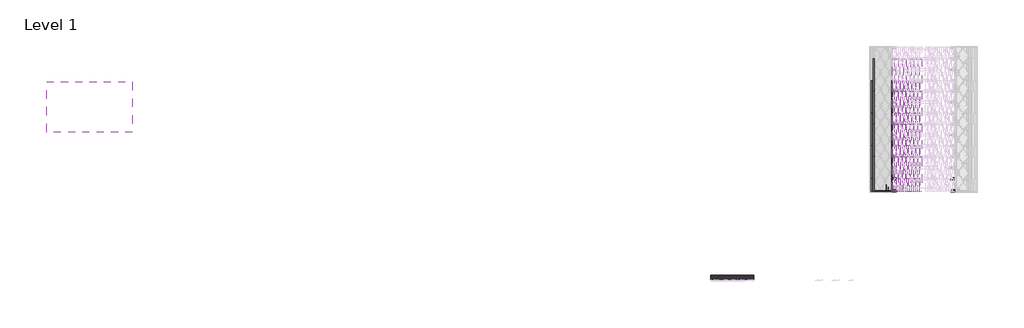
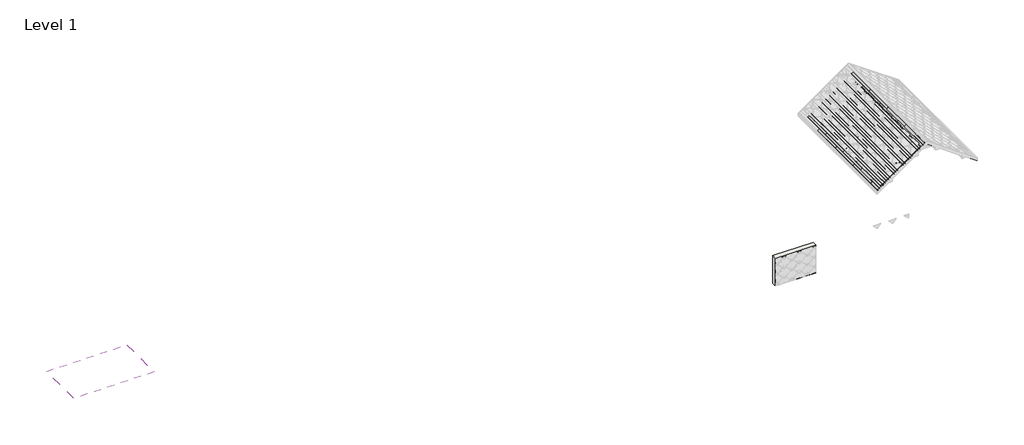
# One storey, part 1 of 6: 106 beams, 1 roof, 1 wall.
"""IFC4 building model written with IfcOpenShell, lengths in millimetres."""

from ifc_helpers import new_model, si_unit, frame, origin, place, context, project, spatial, polyline, outline, extrude, transform, mapped, element, save
from components import structural_framing_100_structural_framing_15_5def26a6, structural_framing_101_structural_framing_15_d9cf2b80, structural_framing_103_structural_framing_15_b869128d, structural_framing_109_structural_framing_15_08dff260, structural_framing_1_structural_framing_1_4f4e03de, structural_framing_14_structural_framing_1_1f79d0da

model = new_model("IFC4")

# Units and contexts
model_context = context("Model", 3, world=origin())
ifc_project = project(units=[si_unit("LENGTHUNIT", "METRE", prefix="MILLI")], contexts=[model_context])

# Site, building, storey
site = spatial("IfcSite", under=ifc_project)
building = spatial("IfcBuilding", under=site)
storey = spatial("IfcBuildingStorey", under=building, Name="Level 1", Elevation=0.0)

# Beams
placement = place(None, origin())
structural_framing_100_structural_framing_15_shape = structural_framing_100_structural_framing_15_5def26a6(model_context)
element("IfcBeam", 1, ObjectType="Structural Framing 100 : Structural Framing 15", at=placement, inside=storey, context=model_context, shape_type="MappedRepresentation", body=[
    mapped(structural_framing_100_structural_framing_15_shape, transform((-2370.3637404, -870.0, -1700.0), x_axis=(1.0, 0.0, 0.0), y_axis=(0.0, 1.0, 0.0), z_axis=(0.0, 0.0, 1.0))),
])
structural_framing_101_structural_framing_15_shape = structural_framing_101_structural_framing_15_d9cf2b80(model_context)
element("IfcBeam", 2, ObjectType="Structural Framing 101 : Structural Framing 15", at=placement, inside=storey, context=model_context, shape_type="MappedRepresentation", body=[
    mapped(structural_framing_101_structural_framing_15_shape, transform((-2370.3637404, -3340.0, -1700.0), x_axis=(1.0, 0.0, 0.0), y_axis=(0.0, 1.0, 0.0), z_axis=(0.0, 0.0, 1.0))),
])
element("IfcBeam", 3, ObjectType="Structural Framing 102 : Structural Framing 15", at=placement, inside=storey, context=model_context, shape_type="MappedRepresentation", body=[
    mapped(structural_framing_101_structural_framing_15_shape, transform((-2370.3637404, -5740.0, -1700.0), x_axis=(1.0, 0.0, 0.0), y_axis=(0.0, 1.0, 0.0), z_axis=(0.0, 0.0, 1.0))),
])
structural_framing_103_structural_framing_15_shape = structural_framing_103_structural_framing_15_b869128d(model_context)
element("IfcBeam", 4, ObjectType="Structural Framing 103 : Structural Framing 15", at=placement, inside=storey, context=model_context, shape_type="MappedRepresentation", body=[
    mapped(structural_framing_103_structural_framing_15_shape, transform((-2370.3637404, -8140.0, -1700.0), x_axis=(1.0, 0.0, 0.0), y_axis=(0.0, 1.0, 0.0), z_axis=(0.0, 0.0, 1.0))),
])
element("IfcBeam", 5, ObjectType="Structural Framing 106 : Structural Framing 15", at=placement, inside=storey, context=model_context, shape_type="MappedRepresentation", body=[
    mapped(structural_framing_100_structural_framing_15_shape, transform((-2513.178541, -2470.0, -1800.0), x_axis=(1.0, 0.0, 0.0), y_axis=(0.0, 1.0, 0.0), z_axis=(0.0, 0.0, 1.0))),
])
element("IfcBeam", 6, ObjectType="Structural Framing 107 : Structural Framing 15", at=placement, inside=storey, context=model_context, shape_type="MappedRepresentation", body=[
    mapped(structural_framing_100_structural_framing_15_shape, transform((-2513.178541, -4870.0, -1800.0), x_axis=(1.0, 0.0, 0.0), y_axis=(0.0, 1.0, 0.0), z_axis=(0.0, 0.0, 1.0))),
])
element("IfcBeam", 7, ObjectType="Structural Framing 108 : Structural Framing 15", at=placement, inside=storey, context=model_context, shape_type="MappedRepresentation", body=[
    mapped(structural_framing_100_structural_framing_15_shape, transform((-2513.178541, -7270.0, -1800.0), x_axis=(1.0, 0.0, 0.0), y_axis=(0.0, 1.0, 0.0), z_axis=(0.0, 0.0, 1.0))),
])
structural_framing_109_structural_framing_15_shape = structural_framing_109_structural_framing_15_08dff260(model_context)
element("IfcBeam", 8, ObjectType="Structural Framing 109 : Structural Framing 15", at=placement, inside=storey, context=model_context, shape_type="MappedRepresentation", body=[
    mapped(structural_framing_109_structural_framing_15_shape, transform((-2513.178541, -9670.0, -1800.0), x_axis=(1.0, 0.0, 0.0), y_axis=(0.0, 1.0, 0.0), z_axis=(0.0, 0.0, 1.0))),
])
element("IfcBeam", 9, ObjectType="Structural Framing 110 : Structural Framing 15", at=placement, inside=storey, context=model_context, shape_type="MappedRepresentation", body=[
    mapped(structural_framing_100_structural_framing_15_shape, transform((-2655.9933417, -870.0, -1900.0), x_axis=(1.0, 0.0, 0.0), y_axis=(0.0, 1.0, 0.0), z_axis=(0.0, 0.0, 1.0))),
])
element("IfcBeam", 10, ObjectType="Structural Framing 111 : Structural Framing 15", at=placement, inside=storey, context=model_context, shape_type="MappedRepresentation", body=[
    mapped(structural_framing_101_structural_framing_15_shape, transform((-2655.9933417, -3340.0, -1900.0), x_axis=(1.0, 0.0, 0.0), y_axis=(0.0, 1.0, 0.0), z_axis=(0.0, 0.0, 1.0))),
])
element("IfcBeam", 11, ObjectType="Structural Framing 112 : Structural Framing 15", at=placement, inside=storey, context=model_context, shape_type="MappedRepresentation", body=[
    mapped(structural_framing_101_structural_framing_15_shape, transform((-2655.9933417, -5740.0, -1900.0), x_axis=(1.0, 0.0, 0.0), y_axis=(0.0, 1.0, 0.0), z_axis=(0.0, 0.0, 1.0))),
])
element("IfcBeam", 12, ObjectType="Structural Framing 113 : Structural Framing 15", at=placement, inside=storey, context=model_context, shape_type="MappedRepresentation", body=[
    mapped(structural_framing_103_structural_framing_15_shape, transform((-2655.9933417, -8140.0, -1900.0), x_axis=(1.0, 0.0, 0.0), y_axis=(0.0, 1.0, 0.0), z_axis=(0.0, 0.0, 1.0))),
])
element("IfcBeam", 13, ObjectType="Structural Framing 116 : Structural Framing 15", at=placement, inside=storey, context=model_context, shape_type="MappedRepresentation", body=[
    mapped(structural_framing_100_structural_framing_15_shape, transform((-2798.8081424, -2470.0, -2000.0), x_axis=(1.0, 0.0, 0.0), y_axis=(0.0, 1.0, 0.0), z_axis=(0.0, 0.0, 1.0))),
])
element("IfcBeam", 14, ObjectType="Structural Framing 117 : Structural Framing 15", at=placement, inside=storey, context=model_context, shape_type="MappedRepresentation", body=[
    mapped(structural_framing_100_structural_framing_15_shape, transform((-2798.8081424, -4870.0, -2000.0), x_axis=(1.0, 0.0, 0.0), y_axis=(0.0, 1.0, 0.0), z_axis=(0.0, 0.0, 1.0))),
])
element("IfcBeam", 15, ObjectType="Structural Framing 118 : Structural Framing 15", at=placement, inside=storey, context=model_context, shape_type="MappedRepresentation", body=[
    mapped(structural_framing_100_structural_framing_15_shape, transform((-2798.8081424, -7270.0, -2000.0), x_axis=(1.0, 0.0, 0.0), y_axis=(0.0, 1.0, 0.0), z_axis=(0.0, 0.0, 1.0))),
])
element("IfcBeam", 16, ObjectType="Structural Framing 119 : Structural Framing 15", at=placement, inside=storey, context=model_context, shape_type="MappedRepresentation", body=[
    mapped(structural_framing_109_structural_framing_15_shape, transform((-2798.8081424, -9670.0, -2000.0), x_axis=(1.0, 0.0, 0.0), y_axis=(0.0, 1.0, 0.0), z_axis=(0.0, 0.0, 1.0))),
])
element("IfcBeam", 17, ObjectType="Structural Framing 120 : Structural Framing 15", at=placement, inside=storey, context=model_context, shape_type="MappedRepresentation", body=[
    mapped(structural_framing_100_structural_framing_15_shape, transform((-2941.622943, -870.0, -2100.0), x_axis=(1.0, 0.0, 0.0), y_axis=(0.0, 1.0, 0.0), z_axis=(0.0, 0.0, 1.0))),
])
element("IfcBeam", 18, ObjectType="Structural Framing 121 : Structural Framing 15", at=placement, inside=storey, context=model_context, shape_type="MappedRepresentation", body=[
    mapped(structural_framing_101_structural_framing_15_shape, transform((-2941.622943, -3340.0, -2100.0), x_axis=(1.0, 0.0, 0.0), y_axis=(0.0, 1.0, 0.0), z_axis=(0.0, 0.0, 1.0))),
])
element("IfcBeam", 19, ObjectType="Structural Framing 122 : Structural Framing 15", at=placement, inside=storey, context=model_context, shape_type="MappedRepresentation", body=[
    mapped(structural_framing_101_structural_framing_15_shape, transform((-2941.622943, -5740.0, -2100.0), x_axis=(1.0, 0.0, 0.0), y_axis=(0.0, 1.0, 0.0), z_axis=(0.0, 0.0, 1.0))),
])
element("IfcBeam", 20, ObjectType="Structural Framing 123 : Structural Framing 15", at=placement, inside=storey, context=model_context, shape_type="MappedRepresentation", body=[
    mapped(structural_framing_103_structural_framing_15_shape, transform((-2941.622943, -8140.0, -2100.0), x_axis=(1.0, 0.0, 0.0), y_axis=(0.0, 1.0, 0.0), z_axis=(0.0, 0.0, 1.0))),
])
element("IfcBeam", 21, ObjectType="Structural Framing 126 : Structural Framing 15", at=placement, inside=storey, context=model_context, shape_type="MappedRepresentation", body=[
    mapped(structural_framing_100_structural_framing_15_shape, transform((-3084.4377437, -2470.0, -2200.0), x_axis=(1.0, 0.0, 0.0), y_axis=(0.0, 1.0, 0.0), z_axis=(0.0, 0.0, 1.0))),
])
element("IfcBeam", 22, ObjectType="Structural Framing 127 : Structural Framing 15", at=placement, inside=storey, context=model_context, shape_type="MappedRepresentation", body=[
    mapped(structural_framing_100_structural_framing_15_shape, transform((-3084.4377437, -4870.0, -2200.0), x_axis=(1.0, 0.0, 0.0), y_axis=(0.0, 1.0, 0.0), z_axis=(0.0, 0.0, 1.0))),
])
element("IfcBeam", 23, ObjectType="Structural Framing 128 : Structural Framing 15", at=placement, inside=storey, context=model_context, shape_type="MappedRepresentation", body=[
    mapped(structural_framing_100_structural_framing_15_shape, transform((-3084.4377437, -7270.0, -2200.0), x_axis=(1.0, 0.0, 0.0), y_axis=(0.0, 1.0, 0.0), z_axis=(0.0, 0.0, 1.0))),
])
element("IfcBeam", 24, ObjectType="Structural Framing 129 : Structural Framing 15", at=placement, inside=storey, context=model_context, shape_type="MappedRepresentation", body=[
    mapped(structural_framing_109_structural_framing_15_shape, transform((-3084.4377437, -9670.0, -2200.0), x_axis=(1.0, 0.0, 0.0), y_axis=(0.0, 1.0, 0.0), z_axis=(0.0, 0.0, 1.0))),
])
structural_framing_1_structural_framing_1_shape = structural_framing_1_structural_framing_1_4f4e03de(model_context)
element("IfcBeam", 25, ObjectType="Structural Framing 13 : Structural Framing 1", at=placement, inside=storey, context=model_context, shape_type="MappedRepresentation", body=[
    mapped(structural_framing_1_structural_framing_1_shape, transform((57.4878711, -9600.0, 0.0), x_axis=(1.0, 0.0, 0.0), y_axis=(0.0, 1.0, 0.0), z_axis=(0.0, 0.0, 1.0))),
])
element("IfcBeam", 26, ObjectType="Structural Framing 130 : Structural Framing 15", at=placement, inside=storey, context=model_context, shape_type="MappedRepresentation", body=[
    mapped(structural_framing_100_structural_framing_15_shape, transform((-3227.2525444, -870.0, -2300.0), x_axis=(1.0, 0.0, 0.0), y_axis=(0.0, 1.0, 0.0), z_axis=(0.0, 0.0, 1.0))),
])
element("IfcBeam", 27, ObjectType="Structural Framing 131 : Structural Framing 15", at=placement, inside=storey, context=model_context, shape_type="MappedRepresentation", body=[
    mapped(structural_framing_101_structural_framing_15_shape, transform((-3227.2525444, -3340.0, -2300.0), x_axis=(1.0, 0.0, 0.0), y_axis=(0.0, 1.0, 0.0), z_axis=(0.0, 0.0, 1.0))),
])
element("IfcBeam", 28, ObjectType="Structural Framing 132 : Structural Framing 15", at=placement, inside=storey, context=model_context, shape_type="MappedRepresentation", body=[
    mapped(structural_framing_101_structural_framing_15_shape, transform((-3227.2525444, -5740.0, -2300.0), x_axis=(1.0, 0.0, 0.0), y_axis=(0.0, 1.0, 0.0), z_axis=(0.0, 0.0, 1.0))),
])
element("IfcBeam", 29, ObjectType="Structural Framing 133 : Structural Framing 15", at=placement, inside=storey, context=model_context, shape_type="MappedRepresentation", body=[
    mapped(structural_framing_103_structural_framing_15_shape, transform((-3227.2525444, -8140.0, -2300.0), x_axis=(1.0, 0.0, 0.0), y_axis=(0.0, 1.0, 0.0), z_axis=(0.0, 0.0, 1.0))),
])
element("IfcBeam", 30, ObjectType="Structural Framing 136 : Structural Framing 15", at=placement, inside=storey, context=model_context, shape_type="MappedRepresentation", body=[
    mapped(structural_framing_100_structural_framing_15_shape, transform((-3370.0673451, -2470.0, -2400.0), x_axis=(1.0, 0.0, 0.0), y_axis=(0.0, 1.0, 0.0), z_axis=(0.0, 0.0, 1.0))),
])
element("IfcBeam", 31, ObjectType="Structural Framing 137 : Structural Framing 15", at=placement, inside=storey, context=model_context, shape_type="MappedRepresentation", body=[
    mapped(structural_framing_100_structural_framing_15_shape, transform((-3370.0673451, -4870.0, -2400.0), x_axis=(1.0, 0.0, 0.0), y_axis=(0.0, 1.0, 0.0), z_axis=(0.0, 0.0, 1.0))),
])
element("IfcBeam", 32, ObjectType="Structural Framing 138 : Structural Framing 15", at=placement, inside=storey, context=model_context, shape_type="MappedRepresentation", body=[
    mapped(structural_framing_100_structural_framing_15_shape, transform((-3370.0673451, -7270.0, -2400.0), x_axis=(1.0, 0.0, 0.0), y_axis=(0.0, 1.0, 0.0), z_axis=(0.0, 0.0, 1.0))),
])
element("IfcBeam", 33, ObjectType="Structural Framing 139 : Structural Framing 15", at=placement, inside=storey, context=model_context, shape_type="MappedRepresentation", body=[
    mapped(structural_framing_109_structural_framing_15_shape, transform((-3370.0673451, -9670.0, -2400.0), x_axis=(1.0, 0.0, 0.0), y_axis=(0.0, 1.0, 0.0), z_axis=(0.0, 0.0, 1.0))),
])
structural_framing_14_structural_framing_1_shape = structural_framing_14_structural_framing_1_1f79d0da(model_context)
element("IfcBeam", 34, ObjectType="Structural Framing 14 : Structural Framing 1", at=placement, inside=storey, context=model_context, shape_type="MappedRepresentation", body=[
    mapped(structural_framing_14_structural_framing_1_shape, transform((57.4878711, -10488.455608, 0.0), x_axis=(1.0, 0.0, 0.0), y_axis=(0.0, 1.0, 0.0), z_axis=(0.0, 0.0, 1.0))),
])
element("IfcBeam", 35, ObjectType="Structural Framing 140 : Structural Framing 15", at=placement, inside=storey, context=model_context, shape_type="MappedRepresentation", body=[
    mapped(structural_framing_100_structural_framing_15_shape, transform((-3512.8821457, -870.0, -2500.0), x_axis=(1.0, 0.0, 0.0), y_axis=(0.0, 1.0, 0.0), z_axis=(0.0, 0.0, 1.0))),
])
element("IfcBeam", 36, ObjectType="Structural Framing 141 : Structural Framing 15", at=placement, inside=storey, context=model_context, shape_type="MappedRepresentation", body=[
    mapped(structural_framing_101_structural_framing_15_shape, transform((-3512.8821457, -3340.0, -2500.0), x_axis=(1.0, 0.0, 0.0), y_axis=(0.0, 1.0, 0.0), z_axis=(0.0, 0.0, 1.0))),
])
element("IfcBeam", 37, ObjectType="Structural Framing 142 : Structural Framing 15", at=placement, inside=storey, context=model_context, shape_type="MappedRepresentation", body=[
    mapped(structural_framing_101_structural_framing_15_shape, transform((-3512.8821457, -5740.0, -2500.0), x_axis=(1.0, 0.0, 0.0), y_axis=(0.0, 1.0, 0.0), z_axis=(0.0, 0.0, 1.0))),
])
element("IfcBeam", 38, ObjectType="Structural Framing 143 : Structural Framing 15", at=placement, inside=storey, context=model_context, shape_type="MappedRepresentation", body=[
    mapped(structural_framing_103_structural_framing_15_shape, transform((-3512.8821457, -8140.0, -2500.0), x_axis=(1.0, 0.0, 0.0), y_axis=(0.0, 1.0, 0.0), z_axis=(0.0, 0.0, 1.0))),
])
element("IfcBeam", 39, ObjectType="Structural Framing 146 : Structural Framing 15", at=placement, inside=storey, context=model_context, shape_type="MappedRepresentation", body=[
    mapped(structural_framing_100_structural_framing_15_shape, transform((-3655.6969464, -2470.0, -2600.0), x_axis=(1.0, 0.0, 0.0), y_axis=(0.0, 1.0, 0.0), z_axis=(0.0, 0.0, 1.0))),
])
element("IfcBeam", 40, ObjectType="Structural Framing 147 : Structural Framing 15", at=placement, inside=storey, context=model_context, shape_type="MappedRepresentation", body=[
    mapped(structural_framing_100_structural_framing_15_shape, transform((-3655.6969464, -4870.0, -2600.0), x_axis=(1.0, 0.0, 0.0), y_axis=(0.0, 1.0, 0.0), z_axis=(0.0, 0.0, 1.0))),
])
element("IfcBeam", 41, ObjectType="Structural Framing 148 : Structural Framing 15", at=placement, inside=storey, context=model_context, shape_type="MappedRepresentation", body=[
    mapped(structural_framing_100_structural_framing_15_shape, transform((-3655.6969464, -7270.0, -2600.0), x_axis=(1.0, 0.0, 0.0), y_axis=(0.0, 1.0, 0.0), z_axis=(0.0, 0.0, 1.0))),
])
element("IfcBeam", 42, ObjectType="Structural Framing 149 : Structural Framing 15", at=placement, inside=storey, context=model_context, shape_type="MappedRepresentation", body=[
    mapped(structural_framing_109_structural_framing_15_shape, transform((-3655.6969464, -9670.0, -2600.0), x_axis=(1.0, 0.0, 0.0), y_axis=(0.0, 1.0, 0.0), z_axis=(0.0, 0.0, 1.0))),
])
element("IfcBeam", 43, ObjectType="Structural Framing 20 : Structural Framing 15", at=placement, inside=storey, context=model_context, shape_type="MappedRepresentation", body=[
    mapped(structural_framing_100_structural_framing_15_shape, transform((-85.3269296, -870.0, -100.0), x_axis=(1.0, 0.0, 0.0), y_axis=(0.0, 1.0, 0.0), z_axis=(0.0, 0.0, 1.0))),
])
element("IfcBeam", 44, ObjectType="Structural Framing 21 : Structural Framing 15", at=placement, inside=storey, context=model_context, shape_type="MappedRepresentation", body=[
    mapped(structural_framing_101_structural_framing_15_shape, transform((-85.3269296, -3340.0, -100.0), x_axis=(1.0, 0.0, 0.0), y_axis=(0.0, 1.0, 0.0), z_axis=(0.0, 0.0, 1.0))),
])
element("IfcBeam", 45, ObjectType="Structural Framing 22 : Structural Framing 15", at=placement, inside=storey, context=model_context, shape_type="MappedRepresentation", body=[
    mapped(structural_framing_101_structural_framing_15_shape, transform((-85.3269296, -5740.0, -100.0), x_axis=(1.0, 0.0, 0.0), y_axis=(0.0, 1.0, 0.0), z_axis=(0.0, 0.0, 1.0))),
])
element("IfcBeam", 46, ObjectType="Structural Framing 23 : Structural Framing 15", at=placement, inside=storey, context=model_context, shape_type="MappedRepresentation", body=[
    mapped(structural_framing_103_structural_framing_15_shape, transform((-85.3269296, -8140.0, -100.0), x_axis=(1.0, 0.0, 0.0), y_axis=(0.0, 1.0, 0.0), z_axis=(0.0, 0.0, 1.0))),
])
element("IfcBeam", 47, ObjectType="Structural Framing 26 : Structural Framing 15", at=placement, inside=storey, context=model_context, shape_type="MappedRepresentation", body=[
    mapped(structural_framing_100_structural_framing_15_shape, transform((-228.1417302, -2470.0, -200.0), x_axis=(1.0, 0.0, 0.0), y_axis=(0.0, 1.0, 0.0), z_axis=(0.0, 0.0, 1.0))),
])
element("IfcBeam", 48, ObjectType="Structural Framing 27 : Structural Framing 15", at=placement, inside=storey, context=model_context, shape_type="MappedRepresentation", body=[
    mapped(structural_framing_100_structural_framing_15_shape, transform((-228.1417302, -4870.0, -200.0), x_axis=(1.0, 0.0, 0.0), y_axis=(0.0, 1.0, 0.0), z_axis=(0.0, 0.0, 1.0))),
])
element("IfcBeam", 49, ObjectType="Structural Framing 28 : Structural Framing 15", at=placement, inside=storey, context=model_context, shape_type="MappedRepresentation", body=[
    mapped(structural_framing_100_structural_framing_15_shape, transform((-228.1417302, -7270.0, -200.0), x_axis=(1.0, 0.0, 0.0), y_axis=(0.0, 1.0, 0.0), z_axis=(0.0, 0.0, 1.0))),
])
element("IfcBeam", 50, ObjectType="Structural Framing 29 : Structural Framing 15", at=placement, inside=storey, context=model_context, shape_type="MappedRepresentation", body=[
    mapped(structural_framing_109_structural_framing_15_shape, transform((-228.1417302, -9670.0, -200.0), x_axis=(1.0, 0.0, 0.0), y_axis=(0.0, 1.0, 0.0), z_axis=(0.0, 0.0, 1.0))),
])
element("IfcBeam", 51, ObjectType="Structural Framing 30 : Structural Framing 15", at=placement, inside=storey, context=model_context, shape_type="MappedRepresentation", body=[
    mapped(structural_framing_100_structural_framing_15_shape, transform((-370.9565309, -870.0, -300.0), x_axis=(1.0, 0.0, 0.0), y_axis=(0.0, 1.0, 0.0), z_axis=(0.0, 0.0, 1.0))),
])
element("IfcBeam", 52, ObjectType="Structural Framing 31 : Structural Framing 15", at=placement, inside=storey, context=model_context, shape_type="MappedRepresentation", body=[
    mapped(structural_framing_101_structural_framing_15_shape, transform((-370.9565309, -3340.0, -300.0), x_axis=(1.0, 0.0, 0.0), y_axis=(0.0, 1.0, 0.0), z_axis=(0.0, 0.0, 1.0))),
])
element("IfcBeam", 53, ObjectType="Structural Framing 32 : Structural Framing 15", at=placement, inside=storey, context=model_context, shape_type="MappedRepresentation", body=[
    mapped(structural_framing_101_structural_framing_15_shape, transform((-370.9565309, -5740.0, -300.0), x_axis=(1.0, 0.0, 0.0), y_axis=(0.0, 1.0, 0.0), z_axis=(0.0, 0.0, 1.0))),
])
element("IfcBeam", 54, ObjectType="Structural Framing 33 : Structural Framing 15", at=placement, inside=storey, context=model_context, shape_type="MappedRepresentation", body=[
    mapped(structural_framing_103_structural_framing_15_shape, transform((-370.9565309, -8140.0, -300.0), x_axis=(1.0, 0.0, 0.0), y_axis=(0.0, 1.0, 0.0), z_axis=(0.0, 0.0, 1.0))),
])
element("IfcBeam", 55, ObjectType="Structural Framing 36 : Structural Framing 15", at=placement, inside=storey, context=model_context, shape_type="MappedRepresentation", body=[
    mapped(structural_framing_100_structural_framing_15_shape, transform((-513.7713316, -2470.0, -400.0), x_axis=(1.0, 0.0, 0.0), y_axis=(0.0, 1.0, 0.0), z_axis=(0.0, 0.0, 1.0))),
])
element("IfcBeam", 56, ObjectType="Structural Framing 37 : Structural Framing 15", at=placement, inside=storey, context=model_context, shape_type="MappedRepresentation", body=[
    mapped(structural_framing_100_structural_framing_15_shape, transform((-513.7713316, -4870.0, -400.0), x_axis=(1.0, 0.0, 0.0), y_axis=(0.0, 1.0, 0.0), z_axis=(0.0, 0.0, 1.0))),
])
element("IfcBeam", 57, ObjectType="Structural Framing 38 : Structural Framing 15", at=placement, inside=storey, context=model_context, shape_type="MappedRepresentation", body=[
    mapped(structural_framing_100_structural_framing_15_shape, transform((-513.7713316, -7270.0, -400.0), x_axis=(1.0, 0.0, 0.0), y_axis=(0.0, 1.0, 0.0), z_axis=(0.0, 0.0, 1.0))),
])
element("IfcBeam", 58, ObjectType="Structural Framing 39 : Structural Framing 15", at=placement, inside=storey, context=model_context, shape_type="MappedRepresentation", body=[
    mapped(structural_framing_109_structural_framing_15_shape, transform((-513.7713316, -9670.0, -400.0), x_axis=(1.0, 0.0, 0.0), y_axis=(0.0, 1.0, 0.0), z_axis=(0.0, 0.0, 1.0))),
])
element("IfcBeam", 59, ObjectType="Structural Framing 40 : Structural Framing 15", at=placement, inside=storey, context=model_context, shape_type="MappedRepresentation", body=[
    mapped(structural_framing_100_structural_framing_15_shape, transform((-656.5861323, -870.0, -500.0), x_axis=(1.0, 0.0, 0.0), y_axis=(0.0, 1.0, 0.0), z_axis=(0.0, 0.0, 1.0))),
])
element("IfcBeam", 60, ObjectType="Structural Framing 41 : Structural Framing 15", at=placement, inside=storey, context=model_context, shape_type="MappedRepresentation", body=[
    mapped(structural_framing_101_structural_framing_15_shape, transform((-656.5861323, -3340.0, -500.0), x_axis=(1.0, 0.0, 0.0), y_axis=(0.0, 1.0, 0.0), z_axis=(0.0, 0.0, 1.0))),
])
element("IfcBeam", 61, ObjectType="Structural Framing 42 : Structural Framing 15", at=placement, inside=storey, context=model_context, shape_type="MappedRepresentation", body=[
    mapped(structural_framing_101_structural_framing_15_shape, transform((-656.5861323, -5740.0, -500.0), x_axis=(1.0, 0.0, 0.0), y_axis=(0.0, 1.0, 0.0), z_axis=(0.0, 0.0, 1.0))),
])
element("IfcBeam", 62, ObjectType="Structural Framing 43 : Structural Framing 15", at=placement, inside=storey, context=model_context, shape_type="MappedRepresentation", body=[
    mapped(structural_framing_103_structural_framing_15_shape, transform((-656.5861323, -8140.0, -500.0), x_axis=(1.0, 0.0, 0.0), y_axis=(0.0, 1.0, 0.0), z_axis=(0.0, 0.0, 1.0))),
])
element("IfcBeam", 63, ObjectType="Structural Framing 46 : Structural Framing 15", at=placement, inside=storey, context=model_context, shape_type="MappedRepresentation", body=[
    mapped(structural_framing_100_structural_framing_15_shape, transform((-799.4009329, -2470.0, -600.0), x_axis=(1.0, 0.0, 0.0), y_axis=(0.0, 1.0, 0.0), z_axis=(0.0, 0.0, 1.0))),
])
element("IfcBeam", 64, ObjectType="Structural Framing 47 : Structural Framing 15", at=placement, inside=storey, context=model_context, shape_type="MappedRepresentation", body=[
    mapped(structural_framing_100_structural_framing_15_shape, transform((-799.4009329, -4870.0, -600.0), x_axis=(1.0, 0.0, 0.0), y_axis=(0.0, 1.0, 0.0), z_axis=(0.0, 0.0, 1.0))),
])
element("IfcBeam", 65, ObjectType="Structural Framing 48 : Structural Framing 15", at=placement, inside=storey, context=model_context, shape_type="MappedRepresentation", body=[
    mapped(structural_framing_100_structural_framing_15_shape, transform((-799.4009329, -7270.0, -600.0), x_axis=(1.0, 0.0, 0.0), y_axis=(0.0, 1.0, 0.0), z_axis=(0.0, 0.0, 1.0))),
])
element("IfcBeam", 66, ObjectType="Structural Framing 49 : Structural Framing 15", at=placement, inside=storey, context=model_context, shape_type="MappedRepresentation", body=[
    mapped(structural_framing_109_structural_framing_15_shape, transform((-799.4009329, -9670.0, -600.0), x_axis=(1.0, 0.0, 0.0), y_axis=(0.0, 1.0, 0.0), z_axis=(0.0, 0.0, 1.0))),
])
element("IfcBeam", 67, ObjectType="Structural Framing 50 : Structural Framing 15", at=placement, inside=storey, context=model_context, shape_type="MappedRepresentation", body=[
    mapped(structural_framing_100_structural_framing_15_shape, transform((-942.2157336, -870.0, -700.0), x_axis=(1.0, 0.0, 0.0), y_axis=(0.0, 1.0, 0.0), z_axis=(0.0, 0.0, 1.0))),
])
element("IfcBeam", 68, ObjectType="Structural Framing 51 : Structural Framing 15", at=placement, inside=storey, context=model_context, shape_type="MappedRepresentation", body=[
    mapped(structural_framing_101_structural_framing_15_shape, transform((-942.2157336, -3340.0, -700.0), x_axis=(1.0, 0.0, 0.0), y_axis=(0.0, 1.0, 0.0), z_axis=(0.0, 0.0, 1.0))),
])
element("IfcBeam", 69, ObjectType="Structural Framing 52 : Structural Framing 15", at=placement, inside=storey, context=model_context, shape_type="MappedRepresentation", body=[
    mapped(structural_framing_101_structural_framing_15_shape, transform((-942.2157336, -5740.0, -700.0), x_axis=(1.0, 0.0, 0.0), y_axis=(0.0, 1.0, 0.0), z_axis=(0.0, 0.0, 1.0))),
])
element("IfcBeam", 70, ObjectType="Structural Framing 53 : Structural Framing 15", at=placement, inside=storey, context=model_context, shape_type="MappedRepresentation", body=[
    mapped(structural_framing_103_structural_framing_15_shape, transform((-942.2157336, -8140.0, -700.0), x_axis=(1.0, 0.0, 0.0), y_axis=(0.0, 1.0, 0.0), z_axis=(0.0, 0.0, 1.0))),
])
element("IfcBeam", 71, ObjectType="Structural Framing 56 : Structural Framing 15", at=placement, inside=storey, context=model_context, shape_type="MappedRepresentation", body=[
    mapped(structural_framing_100_structural_framing_15_shape, transform((-1085.0305343, -2470.0, -800.0), x_axis=(1.0, 0.0, 0.0), y_axis=(0.0, 1.0, 0.0), z_axis=(0.0, 0.0, 1.0))),
])
element("IfcBeam", 72, ObjectType="Structural Framing 57 : Structural Framing 15", at=placement, inside=storey, context=model_context, shape_type="MappedRepresentation", body=[
    mapped(structural_framing_100_structural_framing_15_shape, transform((-1085.0305343, -4870.0, -800.0), x_axis=(1.0, 0.0, 0.0), y_axis=(0.0, 1.0, 0.0), z_axis=(0.0, 0.0, 1.0))),
])
element("IfcBeam", 73, ObjectType="Structural Framing 58 : Structural Framing 15", at=placement, inside=storey, context=model_context, shape_type="MappedRepresentation", body=[
    mapped(structural_framing_100_structural_framing_15_shape, transform((-1085.0305343, -7270.0, -800.0), x_axis=(1.0, 0.0, 0.0), y_axis=(0.0, 1.0, 0.0), z_axis=(0.0, 0.0, 1.0))),
])
element("IfcBeam", 74, ObjectType="Structural Framing 59 : Structural Framing 15", at=placement, inside=storey, context=model_context, shape_type="MappedRepresentation", body=[
    mapped(structural_framing_109_structural_framing_15_shape, transform((-1085.0305343, -9670.0, -800.0), x_axis=(1.0, 0.0, 0.0), y_axis=(0.0, 1.0, 0.0), z_axis=(0.0, 0.0, 1.0))),
])
element("IfcBeam", 75, ObjectType="Structural Framing 60 : Structural Framing 15", at=placement, inside=storey, context=model_context, shape_type="MappedRepresentation", body=[
    mapped(structural_framing_100_structural_framing_15_shape, transform((-1227.845335, -870.0, -900.0), x_axis=(1.0, 0.0, 0.0), y_axis=(0.0, 1.0, 0.0), z_axis=(0.0, 0.0, 1.0))),
])
element("IfcBeam", 76, ObjectType="Structural Framing 61 : Structural Framing 15", at=placement, inside=storey, context=model_context, shape_type="MappedRepresentation", body=[
    mapped(structural_framing_101_structural_framing_15_shape, transform((-1227.845335, -3340.0, -900.0), x_axis=(1.0, 0.0, 0.0), y_axis=(0.0, 1.0, 0.0), z_axis=(0.0, 0.0, 1.0))),
])
element("IfcBeam", 77, ObjectType="Structural Framing 62 : Structural Framing 15", at=placement, inside=storey, context=model_context, shape_type="MappedRepresentation", body=[
    mapped(structural_framing_101_structural_framing_15_shape, transform((-1227.845335, -5740.0, -900.0), x_axis=(1.0, 0.0, 0.0), y_axis=(0.0, 1.0, 0.0), z_axis=(0.0, 0.0, 1.0))),
])
element("IfcBeam", 78, ObjectType="Structural Framing 63 : Structural Framing 15", at=placement, inside=storey, context=model_context, shape_type="MappedRepresentation", body=[
    mapped(structural_framing_103_structural_framing_15_shape, transform((-1227.845335, -8140.0, -900.0), x_axis=(1.0, 0.0, 0.0), y_axis=(0.0, 1.0, 0.0), z_axis=(0.0, 0.0, 1.0))),
])
element("IfcBeam", 79, ObjectType="Structural Framing 66 : Structural Framing 15", at=placement, inside=storey, context=model_context, shape_type="MappedRepresentation", body=[
    mapped(structural_framing_100_structural_framing_15_shape, transform((-1370.6601356, -2470.0, -1000.0), x_axis=(1.0, 0.0, 0.0), y_axis=(0.0, 1.0, 0.0), z_axis=(0.0, 0.0, 1.0))),
])
element("IfcBeam", 80, ObjectType="Structural Framing 67 : Structural Framing 15", at=placement, inside=storey, context=model_context, shape_type="MappedRepresentation", body=[
    mapped(structural_framing_100_structural_framing_15_shape, transform((-1370.6601356, -4870.0, -1000.0), x_axis=(1.0, 0.0, 0.0), y_axis=(0.0, 1.0, 0.0), z_axis=(0.0, 0.0, 1.0))),
])
element("IfcBeam", 81, ObjectType="Structural Framing 68 : Structural Framing 15", at=placement, inside=storey, context=model_context, shape_type="MappedRepresentation", body=[
    mapped(structural_framing_100_structural_framing_15_shape, transform((-1370.6601356, -7270.0, -1000.0), x_axis=(1.0, 0.0, 0.0), y_axis=(0.0, 1.0, 0.0), z_axis=(0.0, 0.0, 1.0))),
])
element("IfcBeam", 82, ObjectType="Structural Framing 69 : Structural Framing 15", at=placement, inside=storey, context=model_context, shape_type="MappedRepresentation", body=[
    mapped(structural_framing_109_structural_framing_15_shape, transform((-1370.6601356, -9670.0, -1000.0), x_axis=(1.0, 0.0, 0.0), y_axis=(0.0, 1.0, 0.0), z_axis=(0.0, 0.0, 1.0))),
])
element("IfcBeam", 83, ObjectType="Structural Framing 70 : Structural Framing 15", at=placement, inside=storey, context=model_context, shape_type="MappedRepresentation", body=[
    mapped(structural_framing_100_structural_framing_15_shape, transform((-1513.4749363, -870.0, -1100.0), x_axis=(1.0, 0.0, 0.0), y_axis=(0.0, 1.0, 0.0), z_axis=(0.0, 0.0, 1.0))),
])
element("IfcBeam", 84, ObjectType="Structural Framing 71 : Structural Framing 15", at=placement, inside=storey, context=model_context, shape_type="MappedRepresentation", body=[
    mapped(structural_framing_101_structural_framing_15_shape, transform((-1513.4749363, -3340.0, -1100.0), x_axis=(1.0, 0.0, 0.0), y_axis=(0.0, 1.0, 0.0), z_axis=(0.0, 0.0, 1.0))),
])
element("IfcBeam", 85, ObjectType="Structural Framing 72 : Structural Framing 15", at=placement, inside=storey, context=model_context, shape_type="MappedRepresentation", body=[
    mapped(structural_framing_101_structural_framing_15_shape, transform((-1513.4749363, -5740.0, -1100.0), x_axis=(1.0, 0.0, 0.0), y_axis=(0.0, 1.0, 0.0), z_axis=(0.0, 0.0, 1.0))),
])
element("IfcBeam", 86, ObjectType="Structural Framing 73 : Structural Framing 15", at=placement, inside=storey, context=model_context, shape_type="MappedRepresentation", body=[
    mapped(structural_framing_103_structural_framing_15_shape, transform((-1513.4749363, -8140.0, -1100.0), x_axis=(1.0, 0.0, 0.0), y_axis=(0.0, 1.0, 0.0), z_axis=(0.0, 0.0, 1.0))),
])
element("IfcBeam", 87, ObjectType="Structural Framing 76 : Structural Framing 15", at=placement, inside=storey, context=model_context, shape_type="MappedRepresentation", body=[
    mapped(structural_framing_100_structural_framing_15_shape, transform((-1656.289737, -2470.0, -1200.0), x_axis=(1.0, 0.0, 0.0), y_axis=(0.0, 1.0, 0.0), z_axis=(0.0, 0.0, 1.0))),
])
element("IfcBeam", 88, ObjectType="Structural Framing 77 : Structural Framing 15", at=placement, inside=storey, context=model_context, shape_type="MappedRepresentation", body=[
    mapped(structural_framing_100_structural_framing_15_shape, transform((-1656.289737, -4870.0, -1200.0), x_axis=(1.0, 0.0, 0.0), y_axis=(0.0, 1.0, 0.0), z_axis=(0.0, 0.0, 1.0))),
])
element("IfcBeam", 89, ObjectType="Structural Framing 78 : Structural Framing 15", at=placement, inside=storey, context=model_context, shape_type="MappedRepresentation", body=[
    mapped(structural_framing_100_structural_framing_15_shape, transform((-1656.289737, -7270.0, -1200.0), x_axis=(1.0, 0.0, 0.0), y_axis=(0.0, 1.0, 0.0), z_axis=(0.0, 0.0, 1.0))),
])
element("IfcBeam", 90, ObjectType="Structural Framing 79 : Structural Framing 15", at=placement, inside=storey, context=model_context, shape_type="MappedRepresentation", body=[
    mapped(structural_framing_109_structural_framing_15_shape, transform((-1656.289737, -9670.0, -1200.0), x_axis=(1.0, 0.0, 0.0), y_axis=(0.0, 1.0, 0.0), z_axis=(0.0, 0.0, 1.0))),
])
element("IfcBeam", 91, ObjectType="Structural Framing 80 : Structural Framing 15", at=placement, inside=storey, context=model_context, shape_type="MappedRepresentation", body=[
    mapped(structural_framing_100_structural_framing_15_shape, transform((-1799.1045377, -870.0, -1300.0), x_axis=(1.0, 0.0, 0.0), y_axis=(0.0, 1.0, 0.0), z_axis=(0.0, 0.0, 1.0))),
])
element("IfcBeam", 92, ObjectType="Structural Framing 81 : Structural Framing 15", at=placement, inside=storey, context=model_context, shape_type="MappedRepresentation", body=[
    mapped(structural_framing_101_structural_framing_15_shape, transform((-1799.1045377, -3340.0, -1300.0), x_axis=(1.0, 0.0, 0.0), y_axis=(0.0, 1.0, 0.0), z_axis=(0.0, 0.0, 1.0))),
])
element("IfcBeam", 93, ObjectType="Structural Framing 82 : Structural Framing 15", at=placement, inside=storey, context=model_context, shape_type="MappedRepresentation", body=[
    mapped(structural_framing_101_structural_framing_15_shape, transform((-1799.1045377, -5740.0, -1300.0), x_axis=(1.0, 0.0, 0.0), y_axis=(0.0, 1.0, 0.0), z_axis=(0.0, 0.0, 1.0))),
])
element("IfcBeam", 94, ObjectType="Structural Framing 83 : Structural Framing 15", at=placement, inside=storey, context=model_context, shape_type="MappedRepresentation", body=[
    mapped(structural_framing_103_structural_framing_15_shape, transform((-1799.1045377, -8140.0, -1300.0), x_axis=(1.0, 0.0, 0.0), y_axis=(0.0, 1.0, 0.0), z_axis=(0.0, 0.0, 1.0))),
])
element("IfcBeam", 95, ObjectType="Structural Framing 86 : Structural Framing 15", at=placement, inside=storey, context=model_context, shape_type="MappedRepresentation", body=[
    mapped(structural_framing_100_structural_framing_15_shape, transform((-1941.9193383, -2470.0, -1400.0), x_axis=(1.0, 0.0, 0.0), y_axis=(0.0, 1.0, 0.0), z_axis=(0.0, 0.0, 1.0))),
])
element("IfcBeam", 96, ObjectType="Structural Framing 87 : Structural Framing 15", at=placement, inside=storey, context=model_context, shape_type="MappedRepresentation", body=[
    mapped(structural_framing_100_structural_framing_15_shape, transform((-1941.9193383, -4870.0, -1400.0), x_axis=(1.0, 0.0, 0.0), y_axis=(0.0, 1.0, 0.0), z_axis=(0.0, 0.0, 1.0))),
])
element("IfcBeam", 97, ObjectType="Structural Framing 88 : Structural Framing 15", at=placement, inside=storey, context=model_context, shape_type="MappedRepresentation", body=[
    mapped(structural_framing_100_structural_framing_15_shape, transform((-1941.9193383, -7270.0, -1400.0), x_axis=(1.0, 0.0, 0.0), y_axis=(0.0, 1.0, 0.0), z_axis=(0.0, 0.0, 1.0))),
])
element("IfcBeam", 98, ObjectType="Structural Framing 89 : Structural Framing 15", at=placement, inside=storey, context=model_context, shape_type="MappedRepresentation", body=[
    mapped(structural_framing_109_structural_framing_15_shape, transform((-1941.9193383, -9670.0, -1400.0), x_axis=(1.0, 0.0, 0.0), y_axis=(0.0, 1.0, 0.0), z_axis=(0.0, 0.0, 1.0))),
])
element("IfcBeam", 99, ObjectType="Structural Framing 90 : Structural Framing 15", at=placement, inside=storey, context=model_context, shape_type="MappedRepresentation", body=[
    mapped(structural_framing_100_structural_framing_15_shape, transform((-2084.734139, -870.0, -1500.0), x_axis=(1.0, 0.0, 0.0), y_axis=(0.0, 1.0, 0.0), z_axis=(0.0, 0.0, 1.0))),
])
element("IfcBeam", 100, ObjectType="Structural Framing 91 : Structural Framing 15", at=placement, inside=storey, context=model_context, shape_type="MappedRepresentation", body=[
    mapped(structural_framing_101_structural_framing_15_shape, transform((-2084.734139, -3340.0, -1500.0), x_axis=(1.0, 0.0, 0.0), y_axis=(0.0, 1.0, 0.0), z_axis=(0.0, 0.0, 1.0))),
])
element("IfcBeam", 101, ObjectType="Structural Framing 92 : Structural Framing 15", at=placement, inside=storey, context=model_context, shape_type="MappedRepresentation", body=[
    mapped(structural_framing_101_structural_framing_15_shape, transform((-2084.734139, -5740.0, -1500.0), x_axis=(1.0, 0.0, 0.0), y_axis=(0.0, 1.0, 0.0), z_axis=(0.0, 0.0, 1.0))),
])
element("IfcBeam", 102, ObjectType="Structural Framing 93 : Structural Framing 15", at=placement, inside=storey, context=model_context, shape_type="MappedRepresentation", body=[
    mapped(structural_framing_103_structural_framing_15_shape, transform((-2084.734139, -8140.0, -1500.0), x_axis=(1.0, 0.0, 0.0), y_axis=(0.0, 1.0, 0.0), z_axis=(0.0, 0.0, 1.0))),
])
element("IfcBeam", 103, ObjectType="Structural Framing 96 : Structural Framing 15", at=placement, inside=storey, context=model_context, shape_type="MappedRepresentation", body=[
    mapped(structural_framing_100_structural_framing_15_shape, transform((-2227.5489397, -2470.0, -1600.0), x_axis=(1.0, 0.0, 0.0), y_axis=(0.0, 1.0, 0.0), z_axis=(0.0, 0.0, 1.0))),
])
element("IfcBeam", 104, ObjectType="Structural Framing 97 : Structural Framing 15", at=placement, inside=storey, context=model_context, shape_type="MappedRepresentation", body=[
    mapped(structural_framing_100_structural_framing_15_shape, transform((-2227.5489397, -4870.0, -1600.0), x_axis=(1.0, 0.0, 0.0), y_axis=(0.0, 1.0, 0.0), z_axis=(0.0, 0.0, 1.0))),
])
element("IfcBeam", 105, ObjectType="Structural Framing 98 : Structural Framing 15", at=placement, inside=storey, context=model_context, shape_type="MappedRepresentation", body=[
    mapped(structural_framing_100_structural_framing_15_shape, transform((-2227.5489397, -7270.0, -1600.0), x_axis=(1.0, 0.0, 0.0), y_axis=(0.0, 1.0, 0.0), z_axis=(0.0, 0.0, 1.0))),
])
element("IfcBeam", 106, ObjectType="Structural Framing 99 : Structural Framing 15", at=placement, inside=storey, context=model_context, shape_type="MappedRepresentation", body=[
    mapped(structural_framing_109_structural_framing_15_shape, transform((-2227.5489397, -9670.0, -1600.0), x_axis=(1.0, 0.0, 0.0), y_axis=(0.0, 1.0, 0.0), z_axis=(0.0, 0.0, 1.0))),
])

# Roof
element("IfcRoof", 107, ObjectType="Generic Roof - 300mm", at=placement, inside=storey, context=model_context, shape_type="SweptSolid", body=[
    extrude(outline(polyline([(-2346.9163659, 1731.2493439), (1374.8278068, 3879.9993439), (1374.8278068, 3533.5891824), (-2346.9163659, 1384.8391824), (-2346.9163659, 1731.2493439)])), frame((-63110.6645932, 0.0, 0.0), z_axis=(1.0, 0.0, 0.0), x_axis=(0.0, 1.0, 0.0)), (0.0, 0.0, 1.0), 6300.0),
])

# Wall
element("IfcWall", 108, ObjectType="Exterior - Brick on Mtl. Stud", at=placement, inside=storey, context=model_context, shape_type="SweptSolid", body=[
    extrude(outline(polyline([(-11206.6040673, -13191.8736519), (-14367.7909552, -13191.8736519), (-14367.7909552, -12841.8736519), (-11206.6040673, -12841.8736519), (-11206.6040673, -13191.8736519)])), frame((0.0, 0.0, 226.5669109), z_axis=(0.0, 0.0, 1.0), x_axis=(1.0, 0.0, 0.0)), (0.0, 0.0, 1.0), 2310.5298975),
])

save(model, "model.ifc")
